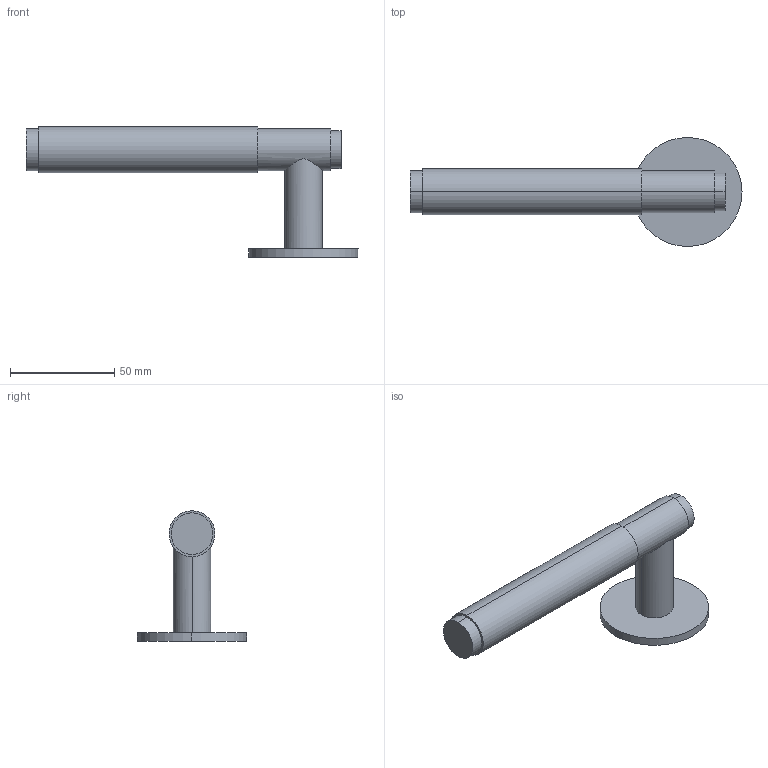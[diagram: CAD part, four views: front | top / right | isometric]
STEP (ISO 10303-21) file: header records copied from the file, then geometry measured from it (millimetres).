
FILE_DESCRIPTION (( 'STEP AP203' ), '1' );
FILE_NAME ('Door Lever Handle.STEP', '2016-10-12T13:40:08', ( '' ), ( '' ), 'SwSTEP 2.0', 'SolidWorks 2014', '' );
FILE_SCHEMA (( 'CONFIG_CONTROL_DESIGN' ));
Length unit declared in the file: millimetre
Products named in the file (1): Door Lever Handle
Bounding box: 159.12 x 52.25 x 62.5 mm (x, y, z)
Volume: 72481.1 mm3; surface area: 17535.6 mm2
Topology: 1 solids, 1 shells, 19 faces, 37 edges, 24 vertices
Faces by surface type: cylinder 12, plane 7
Entity records: 674 total; most frequent: CARTESIAN_POINT 185, DIRECTION 97, ORIENTED_EDGE 74, AXIS2_PLACEMENT_3D 42, EDGE_CURVE 37, VERTEX_POINT 24, EDGE_LOOP 23, CIRCLE 22
